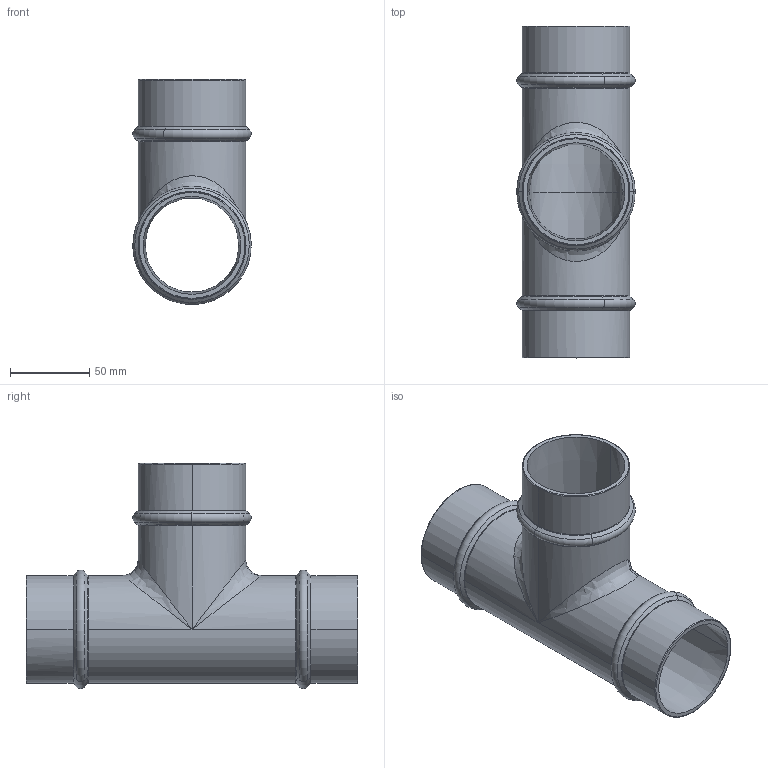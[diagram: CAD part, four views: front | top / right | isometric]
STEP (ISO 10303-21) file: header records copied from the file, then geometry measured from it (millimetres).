
FILE_DESCRIPTION(/* description */ (''),/* implementation_level */ '2;1');
FILE_NAME(/* name */ '6005_stp.stp',/* time_stamp */ '2025-06-20T11:25:49+08:00',/* author */ (''),/* organization */ (''),/* preprocessor_version */ 'ST-DEVELOPER v14',/* originating_system */ 'SIEMENS PLM Software NX 8.0',/* authorisation */ '');
FILE_SCHEMA (('AP203_CONFIGURATION_CONTROLLED_3D_DESIGN_OF_MECHANICAL_PARTS_AND_ASSEMBLIES_MIM_LF { 1 0 10303 403 2 1 2}'));
Length unit declared in the file: millimetre
Products named in the file (1): Admi144825784xcs
Bounding box: 75 x 210 x 142.49 mm (x, y, z)
Volume: 213886.7 mm3; surface area: 114638.6 mm2
Topology: 1 solids, 1 shells, 64 faces, 143 edges, 76 vertices
Faces by surface type: torus 26, cone 22, cylinder 11, plane 3, bspline 2
Entity records: 2816 total; most frequent: CARTESIAN_POINT 1272, DIRECTION 358, ORIENTED_EDGE 278, AXIS2_PLACEMENT_3D 162, EDGE_CURVE 139, CIRCLE 99, VERTEX_POINT 76, EDGE_LOOP 67
